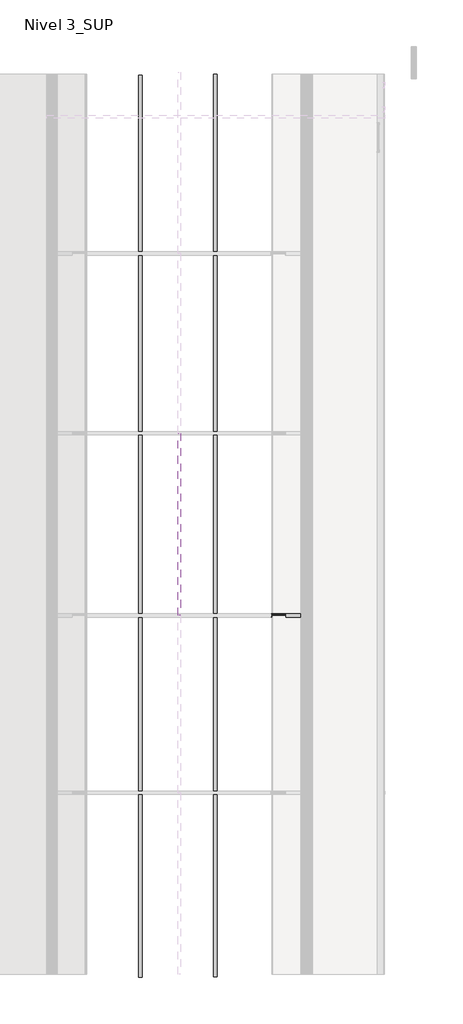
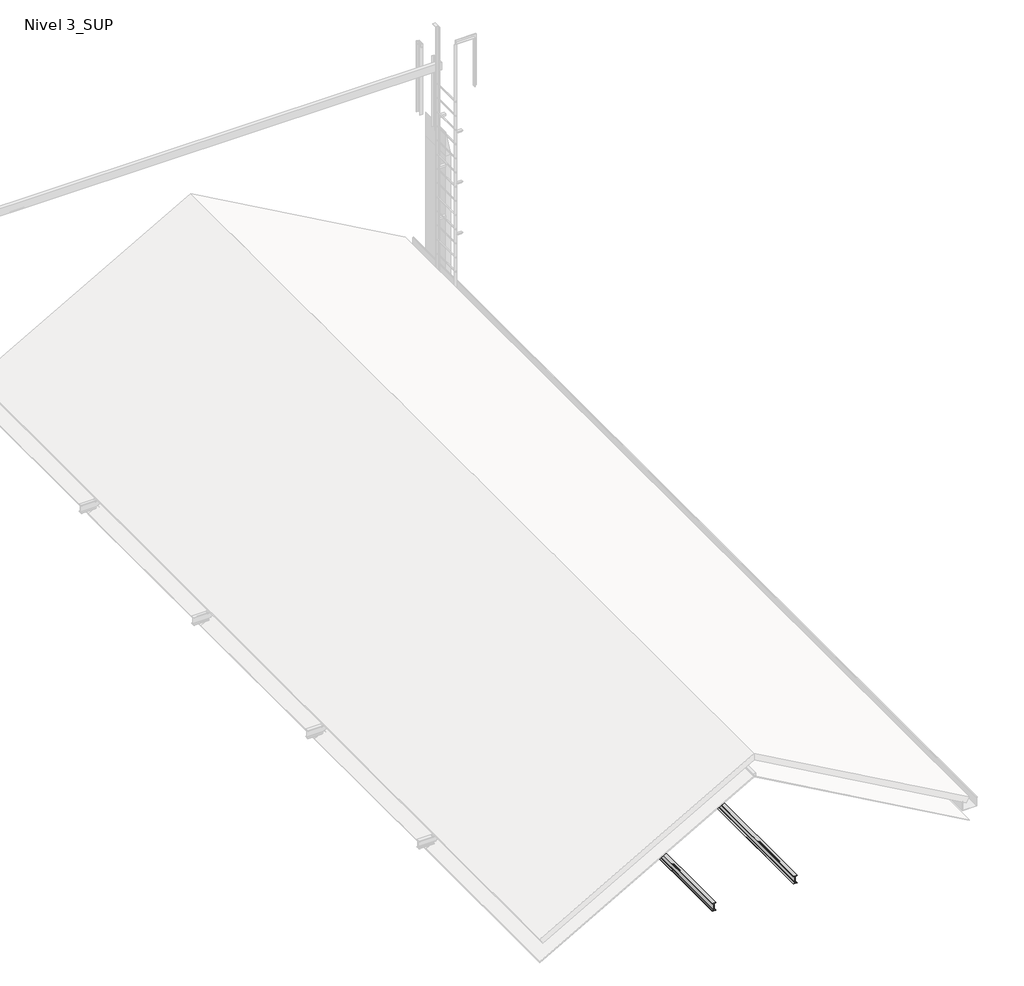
# One storey, part 5 of 10: 5 beams.
"""IFC4 building model written with IfcOpenShell, lengths in millimetres."""

from ifc_helpers import new_model, si_unit, point, frame, frame_2d, origin, place, context, project, spatial, polyline, circle_curve, ellipse_curve, trimmed, segment, composite_curve, outline, extrude, transform, mapped, element, save
from ifc_brep_helpers import plane_surface, cylinder_surface, revolved_surface, advanced_brep
from components import ipn_160_89f4914c, ipn_160_2642508a, madera_50x50mm_114ea56b

model = new_model("IFC4")

# Units and contexts
model_context = context("Model", 3, world=origin())
ifc_project = project(units=[si_unit("LENGTHUNIT", "METRE", prefix="MILLI")], contexts=[model_context])

# Site, building, storey
site = spatial("IfcSite", under=ifc_project)
building = spatial("IfcBuilding", under=site)
storey = spatial("IfcBuildingStorey", under=building, Name="Nivel 3_SUP", Elevation=13230.0)

# Beams
placement = place(None, origin())
element("IfcBeam", 1, ObjectType="IPN - Secciones en I con alas cónicas : IPN 160", at=placement, inside=storey, context=model_context, shape_type="AdvancedBrep", body=[
    advanced_brep(
    [(10454.5171633, 1952.6072273, 15580.1301651), (10456.2902546, 1952.6072273, 15583.268914), (10458.1412343, 1955.8803655, 15586.5455419), (10459.873063, 1981.0307088, 15589.6112472), (10462.9417926, 1986.4572273, 15595.0435514), (10454.5171633, 1986.4572273, 15580.1301651), (10569.87885, 1952.6072273, 15514.9619045), (10569.87885, 1952.6072273, 15519.1022796), (10566.1155514, 1955.8803655, 15525.5504349), (10562.5945033, 1981.0307088, 15531.5835105), (10556.3553503, 1986.4572273, 15542.2738734), (10556.3553503, 1986.4572273, 15522.6013815), (10562.5945033, 1981.0307088, 15519.07686), (10566.1155514, 1955.8803655, 15517.0878064)],
    [
        (0, 1),
        (1, 2, circle_curve(frame((10456.2902546, 1956.4072273, 15583.268914), z_axis=(-0.8706797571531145, 0.0, 0.49185034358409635), x_axis=(0.0, 1.0, 0.0)), 3.8)),
        (2, 3),
        (3, 4, circle_curve(frame((10462.9417926, 1980.1572273, 15595.0435514), z_axis=(0.8706797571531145, 0.0, -0.49185034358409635), x_axis=(0.0, 1.0, 0.0)), 6.3)),
        (4, 5),
        (5, 0),
        (0, 6),
        (6, 7),
        (7, 1),
        (7, 8, ellipse_curve(frame((10569.87885, 1956.4072273, 15519.1022796), z_axis=(-0.8636695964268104, 0.0, -0.5040583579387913), x_axis=(-0.5040583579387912, 0.0, 0.8636695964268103)), 7.5388096, 3.8)),
        (8, 2),
        (8, 9),
        (9, 3),
        (9, 10, ellipse_curve(frame((10556.3553503, 1980.1572273, 15542.2738734), z_axis=(0.8636695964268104, 0.0, 0.5040583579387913), x_axis=(0.5040583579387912, 0.0, -0.8636695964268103)), 12.4985528, 6.3)),
        (10, 4),
        (5, 11),
        (11, 12, ellipse_curve(frame((10556.3553503, 1980.1572273, 15522.6013815), z_axis=(-0.49185034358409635, 0.0, -0.8706797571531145), x_axis=(-0.8706797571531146, 0.0, 0.49185034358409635)), 7.2357258, 6.3)),
        (12, 13),
        (13, 6, ellipse_curve(frame((10569.87885, 1956.4072273, 15514.9619045), z_axis=(0.49185034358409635, 0.0, 0.8706797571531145), x_axis=(0.8706797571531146, 0.0, -0.49185034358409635)), 4.3644061, 3.8)),
        (8, 13),
        (12, 9),
        (11, 10),
    ],
    [
        plane_surface(frame((10493.8651908, 1989.6072273, 15649.7845457), z_axis=(-0.8706797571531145, 0.0, 0.4918503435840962), x_axis=(0.4918503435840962, 0.0, 0.8706797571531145))),
        plane_surface(frame((10454.5171633, 1952.6072273, 15580.1301651), z_axis=(0.0, -1.0, 0.0), x_axis=(0.8706797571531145, 0.0, -0.49185034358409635))),
        cylinder_surface(frame((10456.2902546, 1956.4072273, 15583.268914), z_axis=(-0.8706797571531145, 0.0, 0.49185034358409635), x_axis=(0.0, 1.0, 0.0)), 3.8),
        plane_surface(frame((10459.1897416, 1971.1072273, 15588.4016228), z_axis=(0.48709992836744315, -0.1386478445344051, 0.8622705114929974), x_axis=(0.8706797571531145, 0.0, -0.49185034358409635))),
        revolved_surface(polyline([(10565.754007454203, 1986.4572272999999, 15536.964535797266), (10462.941792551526, 1986.4572272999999, 15595.043551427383)]), (10462.9417926, 1980.1572273, 15595.0435514), (0.8706797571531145, 0.0, -0.49185034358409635)),
        plane_surface(frame((10454.5171633, 2026.6072273, 15580.1301651), z_axis=(-0.49185034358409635, 0.0, -0.8706797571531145), x_axis=(0.8706797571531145, 0.0, -0.49185034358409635))),
        plane_surface(frame((10566.1155514, 1955.8803655, 13390.0), z_axis=(0.9903417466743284, 0.138647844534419, 0.0), x_axis=(0.0, 0.0, 1.0))),
        cylinder_surface(frame((10556.3553503, 1980.1572273, 14544.0), z_axis=(0.0, 0.0, 1.0), x_axis=(0.0, -1.0, 0.0)), 6.3),
        plane_surface(frame((10556.3553503, 1986.4572273, 13390.0), z_axis=(0.0, 1.0, 0.0), x_axis=(0.0, 0.0, 1.0))),
        revolved_surface(polyline([(10569.87885, 1952.6072273, 15512.591238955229), (10569.87885, 1952.6072273, 15525.61332024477)]), (10569.87885, 1956.4072273, 14544.0), (0.0, 0.0, -1.0)),
    ],
    [
        (0, [[1, 2, 3, 4, 5, 6]]),
        (1, [[-1, 7, 8, 9]]),
        (2, [[-2, -9, 10, 11]]),
        (3, [[-3, -11, 12, 13]]),
        (4, [[-4, -13, 14, 15]]),
        (5, [[-6, 16, 17, 18, 19, -7]]),
        (6, [[20, -18, 21, -12]]),
        (7, [[-21, -17, 22, -14]]),
        (8, [[-22, -16, -5, -15]]),
        (9, [[-20, -10, -8, -19]]),
    ],
),
    advanced_brep(
    [(14596.3407681, 2026.6072273, 13240.3980806), (14598.1138594, 2026.6072273, 13243.5368296), (14599.9648391, 2023.3340891, 13246.8134575), (14601.6966678, 1998.1837459, 13249.8791628), (14604.7653974, 1992.7572273, 13255.311467), (14600.1427742, 1992.7572273, 13247.1284404), (14596.6182526, 1998.1837459, 13240.8892874), (14596.3407681, 2001.6923656, 13240.3980806), (14345.2243974, 2026.6072273, 13386.3950593), (14359.537545, 2023.3340891, 13382.6317607), (14372.9293285, 1998.1837459, 13379.1107126), (14396.6590206, 1992.7572273, 13372.8715596), (14337.8950527, 2026.6072273, 13386.3950593), (14595.4712276, 1998.1837459, 13240.8892874), (14584.4265993, 1992.7572273, 13247.1284404), (14361.8345245, 1992.7572273, 13372.8715596), (14350.7898962, 1998.1837459, 13379.1107126), (14344.556892, 2023.3340891, 13382.6317607)],
    [
        (0, 1),
        (1, 2, circle_curve(frame((14598.1138594, 2022.8072273, 13243.5368296), z_axis=(0.8706797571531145, 0.0, -0.49185034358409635), x_axis=(0.0, 1.0, 0.0)), 3.8)),
        (2, 3),
        (3, 4, circle_curve(frame((14604.7653974, 1999.0572273, 13255.311467), z_axis=(-0.8706797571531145, 0.0, 0.49185034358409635), x_axis=(0.0, 1.0, 0.0)), 6.3)),
        (4, 5),
        (5, 6, ellipse_curve(frame((14600.1427742, 1999.0572273, 13247.1284404), z_axis=(0.8706797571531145, 0.0, -0.4918503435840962), x_axis=(0.4918503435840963, 0.0, 0.8706797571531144)), 7.2357258, 6.3)),
        (6, 7),
        (7, 0),
        (1, 8),
        (8, 9, ellipse_curve(frame((14345.2243974, 2022.8072273, 13386.3950593), z_axis=(-0.25428354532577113, 0.0, -0.9671297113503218), x_axis=(-0.9671297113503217, 0.0, 0.2542835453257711)), 14.9439477, 3.8)),
        (9, 2),
        (3, 10),
        (10, 11, ellipse_curve(frame((14396.6590206, 1999.0572273, 13372.8715596), z_axis=(0.25428354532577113, 0.0, 0.9671297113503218), x_axis=(0.9671297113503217, 0.0, -0.2542835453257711)), 24.7754922, 6.3)),
        (11, 4),
        (9, 10),
        (0, 12),
        (12, 8),
        (7, 13),
        (13, 14, ellipse_curve(frame((14584.4265993, 1999.0572273, 13247.1284404), z_axis=(-0.49185034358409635, 0.0, -0.8706797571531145), x_axis=(0.8706797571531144, 0.0, -0.4918503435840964)), 12.8087742, 6.3)),
        (14, 15),
        (15, 16, ellipse_curve(frame((14361.8345245, 1999.0572273, 13372.8715596), z_axis=(-0.49185034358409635, 0.0, -0.8706797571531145), x_axis=(0.8706797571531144, 0.0, -0.4918503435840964)), 12.8087742, 6.3)),
        (16, 17),
        (17, 12, ellipse_curve(frame((14337.8950527, 2022.8072273, 13386.3950593), z_axis=(0.49185034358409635, 0.0, 0.8706797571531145), x_axis=(-0.8706797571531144, 0.0, 0.4918503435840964)), 7.7259273, 3.8)),
        (9, 17),
        (16, 10),
        (15, 11),
        (14, 5),
        (13, 6),
    ],
    [
        plane_surface(frame((14635.6887956, 1989.6072273, 13310.0524612), z_axis=(0.8706797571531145, 0.0, -0.4918503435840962), x_axis=(0.4918503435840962, 0.0, 0.8706797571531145))),
        cylinder_surface(frame((10456.2902546, 2022.8072273, 15583.268914), z_axis=(-0.8706797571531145, 0.0, 0.49185034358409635), x_axis=(0.0, 1.0, 0.0)), 3.8),
        revolved_surface(polyline([(14604.765397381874, 2005.3572273, 13255.311466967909), (14375.796563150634, 2005.3572273, 13384.656842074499)]), (10462.9417926, 1999.0572273, 15595.0435514), (0.8706797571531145, 0.0, -0.49185034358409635)),
        plane_surface(frame((10459.1897416, 2008.1072273, 15588.4016228), z_axis=(0.48709992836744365, 0.13864784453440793, 0.8622705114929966), x_axis=(0.8706797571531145, 0.0, -0.49185034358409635))),
        plane_surface(frame((10456.2902546, 2026.6072273, 15583.268914), z_axis=(0.0, 1.0, 0.0), x_axis=(0.8706797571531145, 0.0, -0.49185034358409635))),
        plane_surface(frame((10454.5171633, 2026.6072273, 15580.1301651), z_axis=(-0.49185034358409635, 0.0, -0.8706797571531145), x_axis=(0.8706797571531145, 0.0, -0.49185034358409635))),
        plane_surface(frame((6033.4837907, 2023.3340891, 13382.6317607), z_axis=(0.0, -0.13864784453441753, 0.9903417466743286), x_axis=(1.0, 0.0, 0.0))),
        cylinder_surface(frame((10483.0206567, 1999.0572273, 13372.8715596), z_axis=(1.0, 0.0, 0.0), x_axis=(0.0, 1.0, 0.0)), 6.3),
        plane_surface(frame((6033.4837907, 1992.7572273, 13372.8715596), z_axis=(0.0, -1.0, 0.0), x_axis=(1.0, 0.0, 0.0))),
        cylinder_surface(frame((10483.0206567, 1999.0572273, 13247.1284404), z_axis=(1.0, 0.0, 0.0), x_axis=(0.0, 1.0, 0.0)), 6.3),
        plane_surface(frame((6033.4837907, 1998.1837459, 13240.8892874), z_axis=(0.0, -0.138647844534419, -0.9903417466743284), x_axis=(1.0, 0.0, 0.0))),
        revolved_surface(polyline([(14330.771661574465, 2026.6072273, 13386.3950593), (14359.677133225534, 2026.6072273, 13386.3950593)]), (10483.0206567, 2022.8072273, 13386.3950593), (-1.0, 0.0, 0.0)),
    ],
    [
        (0, [[1, 2, 3, 4, 5, 6, 7, 8]]),
        (1, [[-2, 9, 10, 11]]),
        (2, [[-4, 12, 13, 14]]),
        (3, [[-3, -11, 15, -12]]),
        (4, [[-1, 16, 17, -9]]),
        (5, [[-8, 18, 19, 20, 21, 22, 23, -16]]),
        (6, [[24, -22, 25, -15]]),
        (7, [[-25, -21, 26, -13]]),
        (8, [[-26, -20, 27, -5, -14]]),
        (9, [[-27, -19, 28, -6]]),
        (10, [[-28, -18, -7]]),
        (11, [[-24, -10, -17, -23]]),
    ],
),
    advanced_brep(
    [(10531.4401269, 2026.6072273, 15716.3001773), (10533.2132183, 2026.6072273, 15719.4389262), (10571.1646792, 2026.6072273, 15698.0), (10569.87885, 2026.6072273, 15698.0), (10569.87885, 2026.6072273, 15694.5859948), (10529.5891472, 2023.3340891, 15713.0235494), (10566.1155514, 2023.3340891, 15692.3896432), (10527.8573185, 1998.1837459, 15709.9578441), (10562.5945033, 1998.1837459, 15690.3346748), (10524.788589, 1992.7572273, 15704.5255399), (10556.3553503, 1992.7572273, 15686.693355), (10536.340183, 1992.7572273, 15698.0), (10521.1022864, 1992.7572273, 15698.0), (10524.788589, 1986.4572273, 15704.5255399), (10521.1022864, 1986.4572273, 15698.0), (10536.340183, 1986.4572273, 15698.0), (10527.8573185, 1981.0307088, 15709.9578441), (10556.3553503, 1986.4572273, 15686.693355), (10562.5945033, 1981.0307088, 15690.3346748), (10529.5891472, 1955.8803655, 15713.0235494), (10566.1155514, 1955.8803655, 15692.3896432), (10531.4401269, 1952.6072273, 15716.3001773), (10569.87885, 1952.6072273, 15694.5859948), (10533.2132183, 1952.6072273, 15719.4389262), (10569.87885, 1952.6072273, 15698.0), (10571.1646792, 1952.6072273, 15698.0), (10566.1155514, 2023.3340891, 15698.0), (10566.1155514, 1955.8803655, 15698.0), (10562.5945033, 1981.0307088, 15698.0), (10556.3553503, 1986.4572273, 15698.0), (10556.3553503, 1992.7572273, 15698.0), (10562.5945033, 1998.1837459, 15698.0)],
    [
        (0, 1),
        (1, 2),
        (2, 3),
        (3, 4),
        (4, 0),
        (5, 0, circle_curve(frame((10531.4401269, 2022.8072273, 15716.3001773), z_axis=(0.8706797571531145, 0.0, -0.49185034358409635), x_axis=(0.0, 1.0, 0.0)), 3.8)),
        (4, 6, ellipse_curve(frame((10569.87885, 2022.8072273, 15694.5859948), z_axis=(-0.5040583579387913, 0.0, 0.8636695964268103), x_axis=(-0.8636695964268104, 0.0, -0.5040583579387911)), 4.3998307, 3.8)),
        (6, 5),
        (7, 5),
        (6, 8),
        (8, 7),
        (9, 7, circle_curve(frame((10524.788589, 1999.0572273, 15704.5255399), z_axis=(-0.8706797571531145, 0.0, 0.49185034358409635), x_axis=(0.0, 1.0, 0.0)), 6.3)),
        (8, 10, ellipse_curve(frame((10556.3553503, 1999.0572273, 15686.693355), z_axis=(0.5040583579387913, 0.0, -0.8636695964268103), x_axis=(0.8636695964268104, 0.0, 0.5040583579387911)), 7.2944562, 6.3)),
        (10, 11),
        (11, 9),
        (12, 9),
        (11, 12),
        (13, 14),
        (14, 15),
        (15, 13),
        (16, 13, circle_curve(frame((10524.788589, 1980.1572273, 15704.5255399), z_axis=(-0.8706797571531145, 0.0, 0.49185034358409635), x_axis=(0.0, 1.0, 0.0)), 6.3)),
        (15, 17),
        (17, 18, ellipse_curve(frame((10556.3553503, 1980.1572273, 15686.693355), z_axis=(0.5040583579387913, 0.0, -0.8636695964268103), x_axis=(0.8636695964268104, 0.0, 0.5040583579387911)), 7.2944562, 6.3)),
        (18, 16),
        (19, 16),
        (18, 20),
        (20, 19),
        (21, 19, circle_curve(frame((10531.4401269, 1956.4072273, 15716.3001773), z_axis=(0.8706797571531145, 0.0, -0.49185034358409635), x_axis=(0.0, 1.0, 0.0)), 3.8)),
        (20, 22, ellipse_curve(frame((10569.87885, 1956.4072273, 15694.5859948), z_axis=(-0.5040583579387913, 0.0, 0.8636695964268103), x_axis=(-0.8636695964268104, 0.0, -0.5040583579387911)), 4.3998307, 3.8)),
        (22, 21),
        (23, 21),
        (22, 24),
        (24, 25),
        (25, 23),
        (1, 23),
        (25, 2),
        (26, 3, circle_curve(frame((10569.87885, 2022.8072273, 15698.0), z_axis=(0.0, 0.0, -1.0), x_axis=(0.0, -1.0, 0.0)), 3.8)),
        (24, 27, circle_curve(frame((10569.87885, 1956.4072273, 15698.0), z_axis=(0.0, 0.0, -1.0), x_axis=(0.0, -1.0, 0.0)), 3.8)),
        (27, 28),
        (28, 29, circle_curve(frame((10556.3553503, 1980.1572273, 15698.0), z_axis=(0.0, 0.0, 1.0), x_axis=(0.0, -1.0, 0.0)), 6.3)),
        (29, 15),
        (14, 12),
        (11, 30),
        (30, 31, circle_curve(frame((10556.3553503, 1999.0572273, 15698.0), z_axis=(0.0, 0.0, 1.0), x_axis=(0.0, -1.0, 0.0)), 6.3)),
        (31, 26),
        (20, 27),
        (18, 28),
        (17, 29),
        (10, 30),
        (8, 31),
        (6, 26),
    ],
    [
        plane_surface(frame((10533.2132183, 2026.6072273, 15719.4389262), z_axis=(0.0, 1.0, 0.0), x_axis=(0.8706797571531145, 0.0, -0.49185034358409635))),
        cylinder_surface(frame((10531.4401269, 2022.8072273, 15716.3001773), z_axis=(-0.8706797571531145, 0.0, 0.49185034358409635), x_axis=(0.0, 1.0, 0.0)), 3.8),
        plane_surface(frame((10528.54064, 2008.1072273, 15711.1674685), z_axis=(-0.4870999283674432, 0.1386478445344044, -0.8622705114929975), x_axis=(0.8706797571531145, 0.0, -0.49185034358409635))),
        revolved_surface(polyline([(10559.556693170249, 2005.3572273, 15684.884904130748), (10524.788588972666, 2005.3572273, 15704.525539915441)]), (10524.788589, 1999.0572273, 15704.5255399), (0.8706797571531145, 0.0, -0.49185034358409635)),
        plane_surface(frame((10524.788589, 1992.7572273, 15704.5255399), z_axis=(0.0, 1.0, 0.0), x_axis=(0.8706797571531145, 0.0, -0.49185034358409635))),
        plane_surface(frame((10462.9417926, 1986.4572273, 15595.0435514), z_axis=(0.0, -1.0, 0.0), x_axis=(0.8706797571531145, 0.0, -0.49185034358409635))),
        revolved_surface(polyline([(10559.556693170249, 1986.4572272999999, 15684.884904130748), (10524.788588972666, 1986.4572272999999, 15704.525539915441)]), (10524.788589, 1980.1572273, 15704.5255399), (0.8706797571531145, 0.0, -0.49185034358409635)),
        plane_surface(frame((10528.54064, 1971.1072273, 15711.1674685), z_axis=(-0.48709992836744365, -0.13864784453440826, -0.8622705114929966), x_axis=(0.8706797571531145, 0.0, -0.49185034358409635))),
        cylinder_surface(frame((10531.4401269, 1956.4072273, 15716.3001773), z_axis=(-0.8706797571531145, 0.0, 0.49185034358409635), x_axis=(0.0, 1.0, 0.0)), 3.8),
        plane_surface(frame((10531.4401269, 1952.6072273, 15716.3001773), z_axis=(0.0, -1.0, 0.0), x_axis=(0.8706797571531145, 0.0, -0.49185034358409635))),
        plane_surface(frame((10533.2132183, 1952.6072273, 15719.4389262), z_axis=(0.49185034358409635, 0.0, 0.8706797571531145), x_axis=(0.8706797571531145, 0.0, -0.49185034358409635))),
        plane_surface(frame((10493.4837907, 1989.6072273, 15698.0), z_axis=(0.0, 0.0, -1.0), x_axis=(0.0, -1.0, 0.0))),
        revolved_surface(polyline([(10569.87885, 1952.6072273, 15692.36822336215), (10569.87885, 1952.6072273, 15698.0)]), (10569.87885, 1956.4072273, 14544.0), (0.0, 0.0, -1.0)),
        plane_surface(frame((10493.8651908, 1989.6072273, 15649.7845457), z_axis=(-0.8706797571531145, 0.0, 0.4918503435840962), x_axis=(0.4918503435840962, 0.0, 0.8706797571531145))),
        plane_surface(frame((10566.1155514, 1955.8803655, 13390.0), z_axis=(0.9903417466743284, 0.138647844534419, 0.0), x_axis=(0.0, 0.0, 1.0))),
        cylinder_surface(frame((10556.3553503, 1980.1572273, 14544.0), z_axis=(0.0, 0.0, 1.0), x_axis=(0.0, -1.0, 0.0)), 6.3),
        plane_surface(frame((10556.3553503, 1986.4572273, 13390.0), z_axis=(0.0, 1.0, 0.0), x_axis=(0.0, 0.0, 1.0))),
        plane_surface(frame((10430.6122311, 1992.7572273, 13390.0), z_axis=(0.0, -1.0, 0.0), x_axis=(0.0, 0.0, 1.0))),
        cylinder_surface(frame((10556.3553503, 1999.0572273, 14544.0), z_axis=(0.0, 0.0, 1.0), x_axis=(0.0, -1.0, 0.0)), 6.3),
        plane_surface(frame((10562.5945033, 1998.1837459, 13390.0), z_axis=(0.9903417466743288, -0.13864784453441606, 0.0), x_axis=(0.0, 0.0, 1.0))),
        revolved_surface(polyline([(10569.87885, 2019.0072273, 15692.36822336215), (10569.87885, 2019.0072273, 15698.0)]), (10569.87885, 2022.8072273, 14544.0), (0.0, 0.0, -1.0)),
    ],
    [
        (0, [[1, 2, 3, 4, 5]]),
        (1, [[6, -5, 7, 8]]),
        (2, [[9, -8, 10, 11]]),
        (3, [[12, -11, 13, 14, 15]]),
        (4, [[16, -15, 17]]),
        (5, [[18, 19, 20]]),
        (6, [[21, -20, 22, 23, 24]]),
        (7, [[25, -24, 26, 27]]),
        (8, [[28, -27, 29, 30]]),
        (9, [[31, -30, 32, 33, 34]]),
        (10, [[35, -34, 36, -2]]),
        (11, [[37, -3, -36, -33, 38, 39, 40, 41, -19, 42, -17, 43, 44, 45]]),
        (12, [[-38, -32, -29, 46]]),
        (13, [[-1, -6, -9, -12, -16, -42, -18, -21, -25, -28, -31, -35]]),
        (14, [[-39, -46, -26, 47]]),
        (15, [[-40, -47, -23, 48]]),
        (16, [[-41, -48, -22]]),
        (17, [[-43, -14, 49]]),
        (18, [[-44, -49, -13, 50]]),
        (19, [[-45, -50, -10, 51]]),
        (20, [[-37, -51, -7, -4]]),
    ],
),
    advanced_brep(
    [(10459.873063, 1998.1837459, 15589.6112472), (10462.9417926, 1992.7572273, 15595.0435514), (10556.3553503, 1992.7572273, 15542.2738734), (10562.5945033, 1998.1837459, 15531.5835105), (10458.1412343, 2023.3340891, 15586.5455419), (10566.1155514, 2023.3340891, 15525.5504349), (10456.2902546, 2026.6072273, 15583.268914), (10569.87885, 2026.6072273, 15519.1022796), (10454.5171633, 2026.6072273, 15580.1301651), (10569.87885, 2026.6072273, 15514.9619045), (10454.5171633, 1992.7572273, 15580.1301651), (10566.1155514, 2023.3340891, 15517.0878064), (10562.5945033, 1998.1837459, 15519.07686), (10556.3553503, 1992.7572273, 15522.6013815)],
    [
        (0, 1, circle_curve(frame((10462.9417926, 1999.0572273, 15595.0435514), z_axis=(-0.8706797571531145, 0.0, 0.49185034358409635), x_axis=(0.0, 1.0, 0.0)), 6.3)),
        (1, 2),
        (2, 3, ellipse_curve(frame((10556.3553503, 1999.0572273, 15542.2738734), z_axis=(0.8636695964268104, 0.0, 0.5040583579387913), x_axis=(0.5040583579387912, 0.0, -0.8636695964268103)), 12.4985528, 6.3)),
        (3, 0),
        (4, 0),
        (3, 5),
        (5, 4),
        (6, 4, circle_curve(frame((10456.2902546, 2022.8072273, 15583.268914), z_axis=(0.8706797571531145, 0.0, -0.49185034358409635), x_axis=(0.0, 1.0, 0.0)), 3.8)),
        (5, 7, ellipse_curve(frame((10569.87885, 2022.8072273, 15519.1022796), z_axis=(-0.8636695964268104, 0.0, -0.5040583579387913), x_axis=(-0.5040583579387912, 0.0, 0.8636695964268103)), 7.5388096, 3.8)),
        (7, 6),
        (8, 6),
        (7, 9),
        (9, 8),
        (10, 8),
        (9, 11, ellipse_curve(frame((10569.87885, 2022.8072273, 15514.9619045), z_axis=(0.49185034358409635, 0.0, 0.8706797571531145), x_axis=(0.8706797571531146, 0.0, -0.49185034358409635)), 4.3644061, 3.8)),
        (11, 12),
        (12, 13, ellipse_curve(frame((10556.3553503, 1999.0572273, 15522.6013815), z_axis=(-0.49185034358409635, 0.0, -0.8706797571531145), x_axis=(-0.8706797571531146, 0.0, 0.49185034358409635)), 7.2357258, 6.3)),
        (13, 10),
        (13, 2),
        (1, 10),
        (12, 3),
        (11, 5),
    ],
    [
        revolved_surface(polyline([(10565.754007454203, 2005.3572273, 15536.964535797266), (10462.941792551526, 2005.3572273, 15595.043551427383)]), (10462.9417926, 1999.0572273, 15595.0435514), (0.8706797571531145, 0.0, -0.49185034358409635)),
        plane_surface(frame((10459.1897416, 2008.1072273, 15588.4016228), z_axis=(0.48709992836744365, 0.13864784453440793, 0.8622705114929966), x_axis=(0.8706797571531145, 0.0, -0.49185034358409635))),
        cylinder_surface(frame((10456.2902546, 2022.8072273, 15583.268914), z_axis=(-0.8706797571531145, 0.0, 0.49185034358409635), x_axis=(0.0, 1.0, 0.0)), 3.8),
        plane_surface(frame((10456.2902546, 2026.6072273, 15583.268914), z_axis=(0.0, 1.0, 0.0), x_axis=(0.8706797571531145, 0.0, -0.49185034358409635))),
        plane_surface(frame((10454.5171633, 2026.6072273, 15580.1301651), z_axis=(-0.49185034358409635, 0.0, -0.8706797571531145), x_axis=(0.8706797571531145, 0.0, -0.49185034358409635))),
        plane_surface(frame((10430.6122311, 1992.7572273, 13390.0), z_axis=(0.0, -1.0, 0.0), x_axis=(0.0, 0.0, 1.0))),
        cylinder_surface(frame((10556.3553503, 1999.0572273, 14544.0), z_axis=(0.0, 0.0, 1.0), x_axis=(0.0, -1.0, 0.0)), 6.3),
        plane_surface(frame((10562.5945033, 1998.1837459, 13390.0), z_axis=(0.9903417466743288, -0.13864784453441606, 0.0), x_axis=(0.0, 0.0, 1.0))),
        revolved_surface(polyline([(10569.87885, 2019.0072273, 15512.591238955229), (10569.87885, 2019.0072273, 15525.61332024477)]), (10569.87885, 2022.8072273, 14544.0), (0.0, 0.0, -1.0)),
        plane_surface(frame((10493.8651908, 1989.6072273, 15649.7845457), z_axis=(-0.8706797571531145, 0.0, 0.4918503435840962), x_axis=(0.4918503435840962, 0.0, 0.8706797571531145))),
    ],
    [
        (0, [[1, 2, 3, 4]]),
        (1, [[5, -4, 6, 7]]),
        (2, [[8, -7, 9, 10]]),
        (3, [[11, -10, 12, 13]]),
        (4, [[14, -13, 15, 16, 17, 18]]),
        (5, [[19, -2, 20, -18]]),
        (6, [[-19, -17, 21, -3]]),
        (7, [[-21, -16, 22, -6]]),
        (8, [[-22, -15, -12, -9]]),
        (9, [[-1, -5, -8, -11, -14, -20]]),
    ],
),
    advanced_brep(
    [(10573.4837907, 1998.1837459, 15525.4321101), (10573.4837907, 1992.7572273, 15532.5979515), (14366.3380368, 1992.7572273, 13390.0), (14353.6529729, 1998.1837459, 13390.0), (10573.4837907, 2023.3340891, 15521.3880882), (14346.4941937, 2023.3340891, 13390.0), (10573.4837907, 2026.6072273, 15512.9254597), (10573.4837907, 2026.6072273, 15517.0658347), (14338.8428853, 2026.6072273, 13390.0), (14331.5135406, 2026.6072273, 13390.0), (10573.4837907, 1952.6072273, 15512.9254597), (14331.5135406, 1952.6072273, 13390.0), (10573.4837907, 1952.6072273, 15517.0658347), (14338.8428853, 1952.6072273, 13390.0), (10573.4837907, 1981.0307088, 15525.4321101), (10573.4837907, 1955.8803655, 15521.3880882), (14346.4941937, 1955.8803655, 13390.0), (14353.6529729, 1981.0307088, 13390.0), (10573.4837907, 1986.4572273, 15532.5979515), (14366.3380368, 1986.4572273, 13390.0), (10573.4837907, 2026.6072273, 15696.6899249), (10573.4837907, 2026.6072273, 15692.5495499), (10573.4837907, 2023.3340891, 15688.2272964), (10573.4837907, 1998.1837459, 15684.1832745), (10573.4837907, 1992.7572273, 15677.0174331), (10573.4837907, 1986.4572273, 15677.0174331), (10573.4837907, 1981.0307088, 15684.1832745), (10573.4837907, 1955.8803655, 15688.2272964), (10573.4837907, 1952.6072273, 15692.5495499), (10573.4837907, 1952.6072273, 15696.6899249), (14656.815743, 2026.6072273, 13390.0), (14649.4863983, 2026.6072273, 13390.0), (14641.8350899, 2023.3340891, 13390.0), (14634.6763106, 1998.1837459, 13390.0), (14621.9912468, 1992.7572273, 13390.0), (14621.9912468, 1986.4572273, 13390.0), (14634.6763106, 1981.0307088, 13390.0), (14641.8350899, 1955.8803655, 13390.0), (14649.4863983, 1952.6072273, 13390.0), (14656.815743, 1952.6072273, 13390.0)],
    [
        (0, 1, ellipse_curve(frame((10573.4837907, 1999.0572273, 15532.5979515), z_axis=(-1.0, 0.0, 0.0), x_axis=(0.0, 0.0, -1.0)), 7.2357258, 6.3)),
        (1, 2),
        (2, 3, ellipse_curve(frame((14366.3380368, 1999.0572273, 13390.0), z_axis=(0.0, 0.0, -1.0), x_axis=(1.0, 0.0, 0.0)), 12.8087742, 6.3)),
        (3, 0),
        (4, 0),
        (3, 5),
        (5, 4),
        (6, 7),
        (7, 8),
        (8, 9),
        (9, 6),
        (10, 6),
        (9, 11),
        (11, 10),
        (12, 10),
        (11, 13),
        (13, 12),
        (14, 15),
        (15, 16),
        (16, 17),
        (17, 14),
        (18, 14, ellipse_curve(frame((10573.4837907, 1980.1572273, 15532.5979515), z_axis=(-1.0, 0.0, 0.0), x_axis=(0.0, 0.0, -1.0)), 7.2357258, 6.3)),
        (17, 19, ellipse_curve(frame((14366.3380368, 1980.1572273, 13390.0), z_axis=(0.0, 0.0, -1.0), x_axis=(1.0, 0.0, 0.0)), 12.8087742, 6.3)),
        (19, 18),
        (7, 4, ellipse_curve(frame((10573.4837907, 2022.8072273, 15517.0658347), z_axis=(1.0, 0.0, 0.0), x_axis=(0.0, 0.0, 1.0)), 4.3644061, 3.8)),
        (5, 8, ellipse_curve(frame((14338.8428853, 2022.8072273, 13390.0), z_axis=(0.0, 0.0, 1.0), x_axis=(-1.0, 0.0, 0.0)), 7.7259273, 3.8)),
        (15, 12, ellipse_curve(frame((10573.4837907, 1956.4072273, 15517.0658347), z_axis=(1.0, 0.0, 0.0), x_axis=(0.0, 0.0, 1.0)), 4.3644061, 3.8)),
        (13, 16, ellipse_curve(frame((14338.8428853, 1956.4072273, 13390.0), z_axis=(0.0, 0.0, 1.0), x_axis=(-1.0, 0.0, 0.0)), 7.7259273, 3.8)),
        (20, 21),
        (21, 22, ellipse_curve(frame((10573.4837907, 2022.8072273, 15692.5495499), z_axis=(-1.0, 0.0, 0.0), x_axis=(0.0, 0.0, 1.0)), 4.3644061, 3.8)),
        (22, 23),
        (23, 24, ellipse_curve(frame((10573.4837907, 1999.0572273, 15677.0174331), z_axis=(1.0, 0.0, 0.0), x_axis=(0.0, 0.0, -1.0)), 7.2357258, 6.3)),
        (24, 1),
        (18, 25),
        (25, 26, ellipse_curve(frame((10573.4837907, 1980.1572273, 15677.0174331), z_axis=(1.0, 0.0, 0.0), x_axis=(0.0, 0.0, -1.0)), 7.2357258, 6.3)),
        (26, 27),
        (27, 28, ellipse_curve(frame((10573.4837907, 1956.4072273, 15692.5495499), z_axis=(-1.0, 0.0, 0.0), x_axis=(0.0, 0.0, 1.0)), 4.3644061, 3.8)),
        (28, 29),
        (29, 20),
        (20, 30),
        (30, 31),
        (31, 21),
        (31, 32, ellipse_curve(frame((14649.4863983, 2022.8072273, 13390.0), z_axis=(0.0, 0.0, 1.0), x_axis=(-1.0, 0.0, 0.0)), 7.7259273, 3.8)),
        (32, 22),
        (32, 33),
        (33, 23),
        (33, 34, ellipse_curve(frame((14621.9912468, 1999.0572273, 13390.0), z_axis=(0.0, 0.0, -1.0), x_axis=(1.0, 0.0, 0.0)), 12.8087742, 6.3)),
        (34, 24),
        (34, 2),
        (19, 35),
        (35, 25),
        (35, 36, ellipse_curve(frame((14621.9912468, 1980.1572273, 13390.0), z_axis=(0.0, 0.0, -1.0), x_axis=(1.0, 0.0, 0.0)), 12.8087742, 6.3)),
        (36, 26),
        (36, 37),
        (37, 27),
        (37, 38, ellipse_curve(frame((14649.4863983, 1956.4072273, 13390.0), z_axis=(0.0, 0.0, 1.0), x_axis=(-1.0, 0.0, 0.0)), 7.7259273, 3.8)),
        (38, 28),
        (38, 39),
        (39, 29),
        (39, 30),
    ],
    [
        revolved_surface(polyline([(14376.048153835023, 2005.3572273, 13384.514717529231), (10570.385133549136, 2005.3572273, 15534.348394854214)]), (10462.9417926, 1999.0572273, 15595.0435514), (0.8706797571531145, 0.0, -0.49185034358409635)),
        plane_surface(frame((10459.1897416, 2008.1072273, 15588.4016228), z_axis=(0.48709992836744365, 0.13864784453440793, 0.8622705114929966), x_axis=(0.8706797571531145, 0.0, -0.49185034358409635))),
        plane_surface(frame((10456.2902546, 2026.6072273, 15583.268914), z_axis=(0.0, 1.0, 0.0), x_axis=(0.8706797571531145, 0.0, -0.49185034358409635))),
        plane_surface(frame((10454.5171633, 2026.6072273, 15580.1301651), z_axis=(-0.49185034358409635, 0.0, -0.8706797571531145), x_axis=(0.8706797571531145, 0.0, -0.49185034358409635))),
        plane_surface(frame((10454.5171633, 1952.6072273, 15580.1301651), z_axis=(0.0, -1.0, 0.0), x_axis=(0.8706797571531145, 0.0, -0.49185034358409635))),
        plane_surface(frame((10459.1897416, 1971.1072273, 15588.4016228), z_axis=(0.48709992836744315, -0.1386478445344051, 0.8622705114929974), x_axis=(0.8706797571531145, 0.0, -0.49185034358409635))),
        revolved_surface(polyline([(14376.048153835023, 1986.4572272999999, 13384.514717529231), (10570.385133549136, 1986.4572272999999, 15534.348394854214)]), (10462.9417926, 1980.1572273, 15595.0435514), (0.8706797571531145, 0.0, -0.49185034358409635)),
        cylinder_surface(frame((10456.2902546, 2022.8072273, 15583.268914), z_axis=(-0.8706797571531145, 0.0, 0.49185034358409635), x_axis=(0.0, 1.0, 0.0)), 3.8),
        cylinder_surface(frame((10456.2902546, 1956.4072273, 15583.268914), z_axis=(-0.8706797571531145, 0.0, 0.49185034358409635), x_axis=(0.0, 1.0, 0.0)), 3.8),
        plane_surface(frame((10573.4837907, 2026.6072273, 13390.0), z_axis=(-1.0, 0.0, 0.0), x_axis=(0.0, 0.0, 1.0))),
        plane_surface(frame((10533.2132183, 2026.6072273, 15719.4389262), z_axis=(0.0, 1.0, 0.0), x_axis=(0.8706797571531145, 0.0, -0.49185034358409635))),
        cylinder_surface(frame((10531.4401269, 2022.8072273, 15716.3001773), z_axis=(-0.8706797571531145, 0.0, 0.49185034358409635), x_axis=(0.0, 1.0, 0.0)), 3.8),
        plane_surface(frame((10528.54064, 2008.1072273, 15711.1674685), z_axis=(-0.4870999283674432, 0.1386478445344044, -0.8622705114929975), x_axis=(0.8706797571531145, 0.0, -0.49185034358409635))),
        revolved_surface(polyline([(14631.70136385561, 2005.3572273, 13384.514717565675), (10570.385133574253, 2005.3572273, 15678.767876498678)]), (10524.788589, 1999.0572273, 15704.5255399), (0.8706797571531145, 0.0, -0.49185034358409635)),
        plane_surface(frame((10524.788589, 1992.7572273, 15704.5255399), z_axis=(0.0, 1.0, 0.0), x_axis=(0.8706797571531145, 0.0, -0.49185034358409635))),
        plane_surface(frame((10462.9417926, 1986.4572273, 15595.0435514), z_axis=(0.0, -1.0, 0.0), x_axis=(0.8706797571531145, 0.0, -0.49185034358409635))),
        revolved_surface(polyline([(14631.70136385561, 1986.4572272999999, 13384.514717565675), (10570.385133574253, 1986.4572272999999, 15678.767876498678)]), (10524.788589, 1980.1572273, 15704.5255399), (0.8706797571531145, 0.0, -0.49185034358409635)),
        plane_surface(frame((10528.54064, 1971.1072273, 15711.1674685), z_axis=(-0.48709992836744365, -0.13864784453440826, -0.8622705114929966), x_axis=(0.8706797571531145, 0.0, -0.49185034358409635))),
        cylinder_surface(frame((10531.4401269, 1956.4072273, 15716.3001773), z_axis=(-0.8706797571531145, 0.0, 0.49185034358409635), x_axis=(0.0, 1.0, 0.0)), 3.8),
        plane_surface(frame((10531.4401269, 1952.6072273, 15716.3001773), z_axis=(0.0, -1.0, 0.0), x_axis=(0.8706797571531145, 0.0, -0.49185034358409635))),
        plane_surface(frame((10533.2132183, 1952.6072273, 15719.4389262), z_axis=(0.49185034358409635, 0.0, 0.8706797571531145), x_axis=(0.8706797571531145, 0.0, -0.49185034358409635))),
        plane_surface(frame((6033.4837907, 1952.6072273, 13390.0), z_axis=(0.0, 0.0, -1.0), x_axis=(1.0, 0.0, 0.0))),
    ],
    [
        (0, [[1, 2, 3, 4]]),
        (1, [[5, -4, 6, 7]]),
        (2, [[8, 9, 10, 11]]),
        (3, [[12, -11, 13, 14]]),
        (4, [[15, -14, 16, 17]]),
        (5, [[18, 19, 20, 21]]),
        (6, [[22, -21, 23, 24]]),
        (7, [[25, -7, 26, -9]]),
        (8, [[27, -17, 28, -19]]),
        (9, [[29, 30, 31, 32, 33, -1, -5, -25, -8, -12, -15, -27, -18, -22, 34, 35, 36, 37, 38, 39]]),
        (10, [[-29, 40, 41, 42]]),
        (11, [[-30, -42, 43, 44]]),
        (12, [[-31, -44, 45, 46]]),
        (13, [[-32, -46, 47, 48]]),
        (14, [[-33, -48, 49, -2]]),
        (15, [[-34, -24, 50, 51]]),
        (16, [[-35, -51, 52, 53]]),
        (17, [[-36, -53, 54, 55]]),
        (18, [[-37, -55, 56, 57]]),
        (19, [[-38, -57, 58, 59]]),
        (20, [[-39, -59, 60, -40]]),
        (21, [[-3, -49, -47, -45, -43, -41, -60, -58, -56, -54, -52, -50, -23, -20, -28, -16, -13, -10, -26, -6]]),
    ],
),
    advanced_brep(
    [(14598.1138594, 1952.6072273, 13243.5368296), (14599.9648391, 1955.8803655, 13246.8134575), (14359.537545, 1955.8803655, 13382.6317607), (14345.2243974, 1952.6072273, 13386.3950593), (14604.7653974, 1986.4572273, 13255.311467), (14601.6966678, 1981.0307088, 13249.8791628), (14596.3407681, 1952.6072273, 13240.3980806), (14596.3407681, 1977.5220891, 13240.3980806), (14596.6182526, 1981.0307088, 13240.8892874), (14600.1427742, 1986.4572273, 13247.1284404), (14337.8950527, 1952.6072273, 13386.3950593), (14344.556892, 1955.8803655, 13382.6317607), (14350.7898962, 1981.0307088, 13379.1107126), (14361.8345245, 1986.4572273, 13372.8715596), (14584.4265993, 1986.4572273, 13247.1284404), (14595.4712276, 1981.0307088, 13240.8892874), (14372.9293285, 1981.0307088, 13379.1107126), (14396.6590206, 1986.4572273, 13372.8715596)],
    [
        (0, 1, circle_curve(frame((14598.1138594, 1956.4072273, 13243.5368296), z_axis=(-0.8706797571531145, 0.0, 0.49185034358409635), x_axis=(0.0, 1.0, 0.0)), 3.8)),
        (1, 2),
        (2, 3, ellipse_curve(frame((14345.2243974, 1956.4072273, 13386.3950593), z_axis=(-0.25428354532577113, 0.0, -0.9671297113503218), x_axis=(-0.9671297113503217, 0.0, 0.2542835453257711)), 14.9439477, 3.8)),
        (3, 0),
        (4, 5, circle_curve(frame((14604.7653974, 1980.1572273, 13255.311467), z_axis=(-0.8706797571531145, 0.0, 0.49185034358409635), x_axis=(0.0, 1.0, 0.0)), 6.3)),
        (5, 1),
        (0, 6),
        (6, 7),
        (7, 8),
        (8, 9, ellipse_curve(frame((14600.1427742, 1980.1572273, 13247.1284404), z_axis=(0.8706797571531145, 0.0, -0.4918503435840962), x_axis=(0.4918503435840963, 0.0, 0.8706797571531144)), 7.2357258, 6.3)),
        (9, 4),
        (6, 10),
        (10, 11, ellipse_curve(frame((14337.8950527, 1956.4072273, 13386.3950593), z_axis=(0.49185034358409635, 0.0, 0.8706797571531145), x_axis=(-0.8706797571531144, 0.0, 0.4918503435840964)), 7.7259273, 3.8)),
        (11, 12),
        (12, 13, ellipse_curve(frame((14361.8345245, 1980.1572273, 13372.8715596), z_axis=(-0.49185034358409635, 0.0, -0.8706797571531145), x_axis=(0.8706797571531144, 0.0, -0.4918503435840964)), 12.8087742, 6.3)),
        (13, 14),
        (14, 15, ellipse_curve(frame((14584.4265993, 1980.1572273, 13247.1284404), z_axis=(-0.49185034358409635, 0.0, -0.8706797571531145), x_axis=(0.8706797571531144, 0.0, -0.4918503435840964)), 12.8087742, 6.3)),
        (15, 7),
        (3, 10),
        (5, 16),
        (16, 2),
        (4, 17),
        (17, 16, ellipse_curve(frame((14396.6590206, 1980.1572273, 13372.8715596), z_axis=(0.25428354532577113, 0.0, 0.9671297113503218), x_axis=(0.9671297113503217, 0.0, -0.2542835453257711)), 24.7754922, 6.3)),
        (15, 8),
        (14, 9),
        (13, 17),
        (12, 16),
        (11, 2),
    ],
    [
        cylinder_surface(frame((10456.2902546, 1956.4072273, 15583.268914), z_axis=(-0.8706797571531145, 0.0, 0.49185034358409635), x_axis=(0.0, 1.0, 0.0)), 3.8),
        plane_surface(frame((14635.6887956, 1989.6072273, 13310.0524612), z_axis=(0.8706797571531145, 0.0, -0.4918503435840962), x_axis=(0.4918503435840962, 0.0, 0.8706797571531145))),
        plane_surface(frame((10454.5171633, 2026.6072273, 15580.1301651), z_axis=(-0.49185034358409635, 0.0, -0.8706797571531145), x_axis=(0.8706797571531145, 0.0, -0.49185034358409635))),
        plane_surface(frame((10454.5171633, 1952.6072273, 15580.1301651), z_axis=(0.0, -1.0, 0.0), x_axis=(0.8706797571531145, 0.0, -0.49185034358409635))),
        plane_surface(frame((10459.1897416, 1971.1072273, 15588.4016228), z_axis=(0.48709992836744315, -0.1386478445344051, 0.8622705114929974), x_axis=(0.8706797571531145, 0.0, -0.49185034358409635))),
        revolved_surface(polyline([(14604.765397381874, 1986.4572272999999, 13255.311466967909), (14375.796563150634, 1986.4572272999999, 13384.656842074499)]), (10462.9417926, 1980.1572273, 15595.0435514), (0.8706797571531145, 0.0, -0.49185034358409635)),
        plane_surface(frame((6033.4837907, 1955.8803655, 13237.3682393), z_axis=(0.0, 0.13864784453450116, -0.9903417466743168), x_axis=(1.0, 0.0, 0.0))),
        cylinder_surface(frame((10483.0206567, 1980.1572273, 13247.1284404), z_axis=(1.0, 0.0, 0.0), x_axis=(0.0, 1.0, 0.0)), 6.3),
        plane_surface(frame((6033.4837907, 1986.4572273, 13247.1284404), z_axis=(0.0, 1.0, 0.0), x_axis=(1.0, 0.0, 0.0))),
        cylinder_surface(frame((10483.0206567, 1980.1572273, 13372.8715596), z_axis=(1.0, 0.0, 0.0), x_axis=(0.0, 1.0, 0.0)), 6.3),
        plane_surface(frame((6033.4837907, 1981.0307088, 13379.1107126), z_axis=(0.0, 0.13864784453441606, 0.9903417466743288), x_axis=(1.0, 0.0, 0.0))),
        revolved_surface(polyline([(14330.771661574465, 1960.2072272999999, 13386.3950593), (14359.677133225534, 1960.2072272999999, 13386.3950593)]), (10483.0206567, 1956.4072273, 13386.3950593), (-1.0, 0.0, 0.0)),
    ],
    [
        (0, [[1, 2, 3, 4]]),
        (1, [[5, 6, -1, 7, 8, 9, 10, 11]]),
        (2, [[-8, 12, 13, 14, 15, 16, 17, 18]]),
        (3, [[-7, -4, 19, -12]]),
        (4, [[-6, 20, 21, -2]]),
        (5, [[-5, 22, 23, -20]]),
        (6, [[24, -9, -18]]),
        (7, [[-24, -17, 25, -10]]),
        (8, [[-25, -16, 26, -22, -11]]),
        (9, [[-26, -15, 27, -23]]),
        (10, [[-27, -14, 28, -21]]),
        (11, [[-28, -13, -19, -3]]),
    ],
),
    advanced_brep(
    [(14666.6121937, 1992.7572273, 13364.7934555), (14669.6809233, 1998.1837459, 13370.2257597), (14671.412752, 2023.3340891, 13373.2914649), (14673.2637317, 2026.6072273, 13376.5680929), (14675.036823, 2026.6072273, 13379.7068418), (14675.036823, 2002.4418116, 13379.7068418), (14674.7000674, 1998.1837459, 13379.1107126), (14671.1755458, 1992.7572273, 13372.8715596), (14654.8784413, 2023.3340891, 13382.6317607), (14669.8590943, 2023.3340891, 13382.6317607), (14663.197255, 2026.6072273, 13386.3950593), (14655.8679103, 2026.6072273, 13386.3950593), (14653.9526662, 1998.1837459, 13379.1107126), (14652.3122307, 1992.7572273, 13372.8715596)],
    [
        (0, 1, circle_curve(frame((14666.6121937, 1999.0572273, 13364.7934555), z_axis=(-0.8706797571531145, 0.0, 0.49185034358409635), x_axis=(0.0, 1.0, 0.0)), 6.3)),
        (1, 2),
        (2, 3, circle_curve(frame((14673.2637317, 2022.8072273, 13376.5680929), z_axis=(0.8706797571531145, 0.0, -0.49185034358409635), x_axis=(0.0, 1.0, 0.0)), 3.8)),
        (3, 4),
        (4, 5),
        (5, 6),
        (6, 7, ellipse_curve(frame((14671.1755458, 1999.0572273, 13372.8715596), z_axis=(0.8706797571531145, 0.0, -0.4918503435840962), x_axis=(0.4918503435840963, 0.0, 0.8706797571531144)), 7.2357258, 6.3)),
        (7, 0),
        (8, 9),
        (9, 10, ellipse_curve(frame((14663.197255, 2022.8072273, 13386.3950593), z_axis=(0.49185034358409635, 0.0, 0.8706797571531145), x_axis=(-0.8706797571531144, 0.0, 0.4918503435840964)), 7.7259273, 3.8)),
        (10, 11),
        (11, 8, ellipse_curve(frame((14655.8679103, 2022.8072273, 13386.3950593), z_axis=(-0.9671297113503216, 0.0, 0.2542835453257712), x_axis=(-0.25428354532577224, 0.0, -0.9671297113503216)), 3.9291524, 3.8)),
        (3, 11),
        (10, 4),
        (2, 8),
        (1, 12),
        (12, 8),
        (0, 13),
        (13, 12, ellipse_curve(frame((14652.3122307, 1999.0572273, 13372.8715596), z_axis=(-0.9671297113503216, 0.0, 0.2542835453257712), x_axis=(-0.25428354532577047, 0.0, -0.9671297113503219)), 6.514121, 6.3)),
        (9, 5),
        (12, 6),
        (13, 7),
    ],
    [
        plane_surface(frame((14635.6887956, 1989.6072273, 13310.0524612), z_axis=(0.8706797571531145, 0.0, -0.4918503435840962), x_axis=(0.4918503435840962, 0.0, 0.8706797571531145))),
        revolved_surface(polyline([(14654.868791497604, 2026.6072273, 13386.3950593), (14669.924063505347, 2026.6072273, 13386.3950593)]), (10483.0206567, 2022.8072273, 13386.3950593), (-1.0, 0.0, 0.0)),
        plane_surface(frame((10533.2132183, 2026.6072273, 15719.4389262), z_axis=(0.0, 1.0, 0.0), x_axis=(0.8706797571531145, 0.0, -0.49185034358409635))),
        cylinder_surface(frame((10531.4401269, 2022.8072273, 15716.3001773), z_axis=(-0.8706797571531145, 0.0, 0.49185034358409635), x_axis=(0.0, 1.0, 0.0)), 3.8),
        plane_surface(frame((10528.54064, 2008.1072273, 15711.1674685), z_axis=(-0.4870999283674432, 0.1386478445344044, -0.8622705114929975), x_axis=(0.8706797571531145, 0.0, -0.49185034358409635))),
        revolved_surface(polyline([(14666.612193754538, 2005.3572273, 13364.793455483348), (14650.870007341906, 2005.3572273, 13373.686277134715)]), (10524.788589, 1999.0572273, 15704.5255399), (0.8706797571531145, 0.0, -0.49185034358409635)),
        plane_surface(frame((10533.2132183, 1952.6072273, 15719.4389262), z_axis=(0.49185034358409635, 0.0, 0.8706797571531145), x_axis=(0.8706797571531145, 0.0, -0.49185034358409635))),
        plane_surface(frame((6033.4837907, 2023.3340891, 13382.6317607), z_axis=(0.0, -0.13864784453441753, 0.9903417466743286), x_axis=(1.0, 0.0, 0.0))),
        cylinder_surface(frame((10483.0206567, 1999.0572273, 13372.8715596), z_axis=(1.0, 0.0, 0.0), x_axis=(0.0, 1.0, 0.0)), 6.3),
        plane_surface(frame((6033.4837907, 1992.7572273, 13372.8715596), z_axis=(0.0, -1.0, 0.0), x_axis=(1.0, 0.0, 0.0))),
    ],
    [
        (0, [[1, 2, 3, 4, 5, 6, 7, 8]]),
        (1, [[9, 10, 11, 12]]),
        (2, [[-4, 13, -11, 14]]),
        (3, [[-3, 15, -12, -13]]),
        (4, [[-2, 16, 17, -15]]),
        (5, [[-1, 18, 19, -16]]),
        (6, [[-5, -14, -10, 20]]),
        (7, [[-9, -17, 21, -6, -20]]),
        (8, [[-21, -19, 22, -7]]),
        (9, [[-22, -18, -8]]),
    ],
),
    advanced_brep(
    [(14675.036823, 1952.6072273, 13379.7068418), (14673.2637317, 1952.6072273, 13376.5680929), (14671.412752, 1955.8803655, 13373.2914649), (14669.6809233, 1981.0307088, 13370.2257597), (14666.6121937, 1986.4572273, 13364.7934555), (14671.1755458, 1986.4572273, 13372.8715596), (14674.7000674, 1981.0307088, 13379.1107126), (14675.036823, 1976.7726431, 13379.7068418), (14669.8590943, 1955.8803655, 13382.6317607), (14654.8784413, 1955.8803655, 13382.6317607), (14655.8679103, 1952.6072273, 13386.3950593), (14663.197255, 1952.6072273, 13386.3950593), (14653.9526662, 1981.0307088, 13379.1107126), (14652.3122307, 1986.4572273, 13372.8715596)],
    [
        (0, 1),
        (1, 2, circle_curve(frame((14673.2637317, 1956.4072273, 13376.5680929), z_axis=(0.8706797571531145, 0.0, -0.49185034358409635), x_axis=(0.0, 1.0, 0.0)), 3.8)),
        (2, 3),
        (3, 4, circle_curve(frame((14666.6121937, 1980.1572273, 13364.7934555), z_axis=(-0.8706797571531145, 0.0, 0.49185034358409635), x_axis=(0.0, 1.0, 0.0)), 6.3)),
        (4, 5),
        (5, 6, ellipse_curve(frame((14671.1755458, 1980.1572273, 13372.8715596), z_axis=(0.8706797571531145, 0.0, -0.4918503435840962), x_axis=(0.4918503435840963, 0.0, 0.8706797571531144)), 7.2357258, 6.3)),
        (6, 7),
        (7, 0),
        (8, 9),
        (9, 10, ellipse_curve(frame((14655.8679103, 1956.4072273, 13386.3950593), z_axis=(-0.9671297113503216, 0.0, 0.2542835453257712), x_axis=(-0.25428354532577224, 0.0, -0.9671297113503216)), 3.9291524, 3.8)),
        (10, 11),
        (11, 8, ellipse_curve(frame((14663.197255, 1956.4072273, 13386.3950593), z_axis=(0.49185034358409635, 0.0, 0.8706797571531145), x_axis=(-0.8706797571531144, 0.0, 0.4918503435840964)), 7.7259273, 3.8)),
        (3, 12),
        (12, 13, ellipse_curve(frame((14652.3122307, 1980.1572273, 13372.8715596), z_axis=(-0.9671297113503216, 0.0, 0.2542835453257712), x_axis=(-0.25428354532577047, 0.0, -0.9671297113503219)), 6.514121, 6.3)),
        (13, 4),
        (2, 9),
        (9, 12),
        (1, 10),
        (0, 11),
        (7, 8),
        (13, 5),
        (12, 6),
    ],
    [
        plane_surface(frame((14635.6887956, 1989.6072273, 13310.0524612), z_axis=(0.8706797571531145, 0.0, -0.4918503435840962), x_axis=(0.4918503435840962, 0.0, 0.8706797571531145))),
        revolved_surface(polyline([(14654.868791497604, 1960.2072272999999, 13386.3950593), (14669.924063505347, 1960.2072272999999, 13386.3950593)]), (10483.0206567, 1956.4072273, 13386.3950593), (-1.0, 0.0, 0.0)),
        revolved_surface(polyline([(14666.612193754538, 1986.4572272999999, 13364.793455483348), (14650.870007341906, 1986.4572272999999, 13373.686277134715)]), (10524.788589, 1980.1572273, 15704.5255399), (0.8706797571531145, 0.0, -0.49185034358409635)),
        plane_surface(frame((10528.54064, 1971.1072273, 15711.1674685), z_axis=(-0.48709992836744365, -0.13864784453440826, -0.8622705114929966), x_axis=(0.8706797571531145, 0.0, -0.49185034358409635))),
        cylinder_surface(frame((10531.4401269, 1956.4072273, 15716.3001773), z_axis=(-0.8706797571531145, 0.0, 0.49185034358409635), x_axis=(0.0, 1.0, 0.0)), 3.8),
        plane_surface(frame((10531.4401269, 1952.6072273, 15716.3001773), z_axis=(0.0, -1.0, 0.0), x_axis=(0.8706797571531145, 0.0, -0.49185034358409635))),
        plane_surface(frame((10533.2132183, 1952.6072273, 15719.4389262), z_axis=(0.49185034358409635, 0.0, 0.8706797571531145), x_axis=(0.8706797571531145, 0.0, -0.49185034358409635))),
        plane_surface(frame((6033.4837907, 1986.4572273, 13247.1284404), z_axis=(0.0, 1.0, 0.0), x_axis=(1.0, 0.0, 0.0))),
        cylinder_surface(frame((10483.0206567, 1980.1572273, 13372.8715596), z_axis=(1.0, 0.0, 0.0), x_axis=(0.0, 1.0, 0.0)), 6.3),
        plane_surface(frame((6033.4837907, 1981.0307088, 13379.1107126), z_axis=(0.0, 0.13864784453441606, 0.9903417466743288), x_axis=(1.0, 0.0, 0.0))),
    ],
    [
        (0, [[1, 2, 3, 4, 5, 6, 7, 8]]),
        (1, [[9, 10, 11, 12]]),
        (2, [[-4, 13, 14, 15]]),
        (3, [[-3, 16, 17, -13]]),
        (4, [[-2, 18, -10, -16]]),
        (5, [[-1, 19, -11, -18]]),
        (6, [[-8, 20, -12, -19]]),
        (7, [[21, -5, -15]]),
        (8, [[-21, -14, 22, -6]]),
        (9, [[-22, -17, -9, -20, -7]]),
    ],
),
])
element("IfcBeam", 2, ObjectType="IPN - Secciones en I con alas cónicas : IPN 160", at=placement, inside=storey, context=model_context, shape_type="SweptSolid", body=[
    extrude(outline(composite_curve([segment(polyline([(10573.4837907, 1952.6072273), (10569.87885, 1952.6072273)]), True, "CONTINUOUS"), segment(trimmed(circle_curve(frame_2d((10569.87885, 1956.4072273)), 3.8), [point((10569.87885, 1952.6072273))], [point((10566.1155514, 1955.8803655))], False, "CARTESIAN"), True, "CONTINUOUS"), segment(polyline([(10566.1155514, 1955.8803655), (10562.5945033, 1981.0307088)]), True, "CONTINUOUS"), segment(trimmed(circle_curve(frame_2d((10556.3553503, 1980.1572273)), 6.3), [point((10562.5945033, 1981.0307088))], [point((10556.3553503, 1986.4572273))], True, "CARTESIAN"), True, "CONTINUOUS"), segment(polyline([(10556.3553503, 1986.4572273), (10430.6122311, 1986.4572273)]), True, "CONTINUOUS"), segment(trimmed(circle_curve(frame_2d((10430.6122311, 1980.1572273)), 6.3), [point((10430.6122311, 1986.4572273))], [point((10424.3730781, 1981.0307088))], True, "CARTESIAN"), True, "CONTINUOUS"), segment(polyline([(10424.3730781, 1981.0307088), (10420.8520301, 1955.8803655)]), True, "CONTINUOUS"), segment(trimmed(circle_curve(frame_2d((10417.0887314, 1956.4072273)), 3.8), [point((10420.8520301, 1955.8803655))], [point((10417.0887314, 1952.6072273))], False, "CARTESIAN"), True, "CONTINUOUS"), segment(polyline([(10417.0887314, 1952.6072273), (10413.4837907, 1952.6072273), (10413.4837907, 2026.6072273), (10417.0887314, 2026.6072273)]), True, "CONTINUOUS"), segment(trimmed(circle_curve(frame_2d((10417.0887314, 2022.8072273)), 3.8), [point((10417.0887314, 2026.6072273))], [point((10420.8520301, 2023.3340891))], False, "CARTESIAN"), True, "CONTINUOUS"), segment(polyline([(10420.8520301, 2023.3340891), (10424.3730781, 1998.1837459)]), True, "CONTINUOUS"), segment(trimmed(circle_curve(frame_2d((10430.6122311, 1999.0572273)), 6.3), [point((10424.3730781, 1998.1837459))], [point((10430.6122311, 1992.7572273))], True, "CARTESIAN"), True, "CONTINUOUS"), segment(polyline([(10430.6122311, 1992.7572273), (10556.3553503, 1992.7572273)]), True, "CONTINUOUS"), segment(trimmed(circle_curve(frame_2d((10556.3553503, 1999.0572273)), 6.3), [point((10556.3553503, 1992.7572273))], [point((10562.5945033, 1998.1837459))], True, "CARTESIAN"), True, "CONTINUOUS"), segment(polyline([(10562.5945033, 1998.1837459), (10566.1155514, 2023.3340891)]), True, "CONTINUOUS"), segment(trimmed(circle_curve(frame_2d((10569.87885, 2022.8072273)), 3.8), [point((10566.1155514, 2023.3340891))], [point((10569.87885, 2026.6072273))], False, "CARTESIAN"), True, "CONTINUOUS"), segment(polyline([(10569.87885, 2026.6072273), (10573.4837907, 2026.6072273), (10573.4837907, 1952.6072273)]), True, "CONTINUOUS")], self_intersect=False)), frame((0.0, 0.0, 13390.0), z_axis=(0.0, 0.0, 1.0), x_axis=(1.0, 0.0, 0.0)), (0.0, 0.0, 1.0), 2308.0),
])
ipn_160_shape = ipn_160_89f4914c(model_context)
element("IfcBeam", 3, ObjectType="IPN - Secciones en I con alas cónicas : IPN 160", at=placement, inside=storey, context=model_context, shape_type="MappedRepresentation", body=[
    mapped(ipn_160_shape, transform((11274.8126262, 3940.1072273, 13150.0), x_axis=(0.0, -1.0, 0.0), y_axis=(1.0, 0.0, 0.0), z_axis=(0.0, 0.0, 1.0))),
])
ipn_160_2_shape = ipn_160_2642508a(model_context)
element("IfcBeam", 4, ObjectType="IPN - Secciones en I con alas cónicas : IPN 160", at=placement, inside=storey, context=model_context, shape_type="MappedRepresentation", body=[
    mapped(ipn_160_2_shape, transform((9644.8126262, 3968.620052, 13150.0), x_axis=(0.0, 1.0, 0.0), y_axis=(-1.0, 0.0, 0.0), z_axis=(0.0, 0.0, 1.0))),
])
madera_50x50mm_shape = madera_50x50mm_114ea56b(model_context)
element("IfcBeam", 5, ObjectType="Madera : 50x50mm", at=placement, inside=storey, context=model_context, shape_type="MappedRepresentation", body=[
    mapped(madera_50x50mm_shape, transform((10493.4837907, 3967.1072273, 15615.0), x_axis=(0.0, 1.0, 0.0), y_axis=(-1.0, 0.0, 0.0), z_axis=(0.0, 0.0, 1.0))),
])

save(model, "model.ifc")
